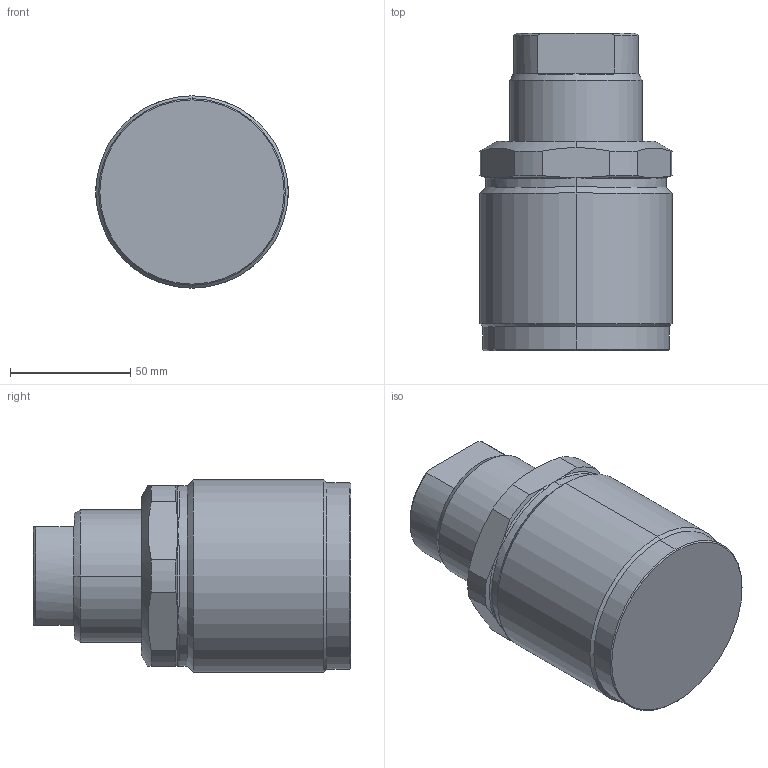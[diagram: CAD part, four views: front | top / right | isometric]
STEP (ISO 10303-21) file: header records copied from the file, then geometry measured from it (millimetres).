
FILE_DESCRIPTION((' '),'2;1');
FILE_NAME( 'TGM60-25.x_t.stp', '2024-08-27T13:43:54', (' '), ('--- Datakit www.datakit.com---'), ' Datakit CrossCadWare V2024.1 Dec 21 2023', 'Mastercam 2025', ' ');
FILE_SCHEMA(('AUTOMOTIVE_DESIGN { 1 0 10303 214 1 1 1 1 }'));
Length unit declared in the file: millimetre
Products named in the file (1): TGM60-25
Bounding box: 80 x 132 x 80 mm (x, y, z)
Volume: 453482.1 mm3; surface area: 49330.3 mm2
Topology: 2 solids, 2 shells, 81 faces, 200 edges, 113 vertices
Faces by surface type: cylinder 24, cone 22, plane 17, bspline 12, torus 6
Entity records: 4237 total; most frequent: CARTESIAN_POINT 2461, ORIENTED_EDGE 372, DIRECTION 350, EDGE_CURVE 186, AXIS2_PLACEMENT_3D 150, VERTEX_POINT 113, EDGE_LOOP 85, FACE_OUTER_BOUND 81
